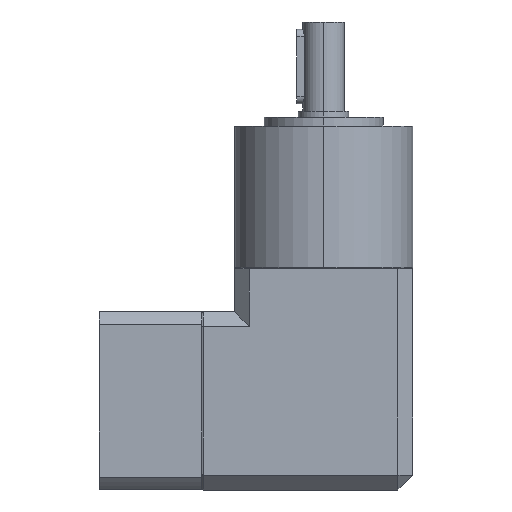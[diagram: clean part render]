
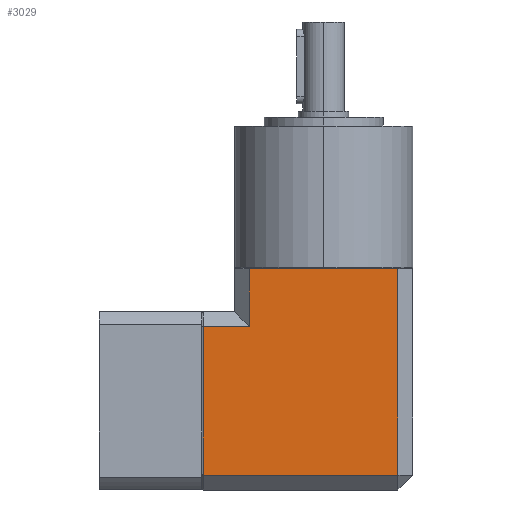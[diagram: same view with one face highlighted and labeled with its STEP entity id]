
A CAD part, left-side view. The second image highlights one B-rep face of the part: STEP entity #3029.
In plain terms, the highlighted planar face has unit normal (-1, 0, 0).
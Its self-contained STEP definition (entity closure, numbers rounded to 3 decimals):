
#25 = CARTESIAN_POINT ( 'NONE',  ( -30., 25., -122.5 ) ) ;
#51 = CARTESIAN_POINT ( 'NONE',  ( -30., -25., -48. ) ) ;
#74 = VECTOR ( 'NONE', #1235, 1000. ) ;
#90 = EDGE_CURVE ( 'NONE', #1121, #1146, #101, .T. ) ;
#101 = LINE ( 'NONE', #25, #2220 ) ;
#188 = ORIENTED_EDGE ( 'NONE', *, *, #1419, .T. ) ;
#244 = PLANE ( 'NONE',  #1110 ) ;
#445 = ORIENTED_EDGE ( 'NONE', *, *, #1644, .T. ) ;
#510 = DIRECTION ( 'NONE',  ( 0., 1., 0. ) ) ;
#606 = VERTEX_POINT ( 'NONE', #1600 ) ;
#611 = VECTOR ( 'NONE', #3540, 1000. ) ;
#657 = ORIENTED_EDGE ( 'NONE', *, *, #2622, .T. ) ;
#668 = CARTESIAN_POINT ( 'NONE',  ( -30., 41., -67.5 ) ) ;
#799 = LINE ( 'NONE', #668, #74 ) ;
#801 = ORIENTED_EDGE ( 'NONE', *, *, #1887, .T. ) ;
#839 = CARTESIAN_POINT ( 'NONE',  ( -30., 25., -67.5 ) ) ;
#894 = EDGE_CURVE ( 'NONE', #606, #1977, #3526, .T. ) ;
#989 = LINE ( 'NONE', #3504, #3097 ) ;
#1069 = DIRECTION ( 'NONE',  ( 0., 0., -1. ) ) ;
#1110 = AXIS2_PLACEMENT_3D ( 'NONE', #2434, #2725, #1069 ) ;
#1121 = VERTEX_POINT ( 'NONE', #3004 ) ;
#1146 = VERTEX_POINT ( 'NONE', #839 ) ;
#1235 = DIRECTION ( 'NONE',  ( 0., 1., 0. ) ) ;
#1338 = CARTESIAN_POINT ( 'NONE',  ( -30., 40.5, -67.5 ) ) ;
#1419 = EDGE_CURVE ( 'NONE', #1977, #1121, #989, .T. ) ;
#1541 = VECTOR ( 'NONE', #2866, 1000. ) ;
#1600 = CARTESIAN_POINT ( 'NONE',  ( -30., -25., -117.5 ) ) ;
#1644 = EDGE_CURVE ( 'NONE', #2224, #1724, #3132, .T. ) ;
#1675 = DIRECTION ( 'NONE',  ( 0., 0., -1. ) ) ;
#1724 = VERTEX_POINT ( 'NONE', #1753 ) ;
#1753 = CARTESIAN_POINT ( 'NONE',  ( -30., 40.5, -117.5 ) ) ;
#1887 = EDGE_CURVE ( 'NONE', #1724, #606, #3121, .T. ) ;
#1906 = CARTESIAN_POINT ( 'NONE',  ( -30., -25., -122.5 ) ) ;
#1977 = VERTEX_POINT ( 'NONE', #51 ) ;
#2156 = ORIENTED_EDGE ( 'NONE', *, *, #894, .T. ) ;
#2220 = VECTOR ( 'NONE', #1675, 1000. ) ;
#2224 = VERTEX_POINT ( 'NONE', #1338 ) ;
#2405 = VECTOR ( 'NONE', #2492, 1000. ) ;
#2434 = CARTESIAN_POINT ( 'NONE',  ( -30., -30., -122.5 ) ) ;
#2492 = DIRECTION ( 'NONE',  ( 0., -1., 0. ) ) ;
#2589 = CARTESIAN_POINT ( 'NONE',  ( -30., 40.5, -122.5 ) ) ;
#2606 = FACE_OUTER_BOUND ( 'NONE', #2879, .T. ) ;
#2622 = EDGE_CURVE ( 'NONE', #1146, #2224, #799, .T. ) ;
#2725 = DIRECTION ( 'NONE',  ( 1., 0., 0. ) ) ;
#2756 = ORIENTED_EDGE ( 'NONE', *, *, #90, .T. ) ;
#2866 = DIRECTION ( 'NONE',  ( 0., 0., -1. ) ) ;
#2879 = EDGE_LOOP ( 'NONE', ( #657, #445, #801, #2156, #188, #2756 ) ) ;
#3004 = CARTESIAN_POINT ( 'NONE',  ( -30., 25., -48. ) ) ;
#3019 = CARTESIAN_POINT ( 'NONE',  ( -30., -30., -117.5 ) ) ;
#3029 = ADVANCED_FACE ( 'NONE', ( #2606 ), #244, .F. ) ;
#3097 = VECTOR ( 'NONE', #510, 1000. ) ;
#3121 = LINE ( 'NONE', #3019, #2405 ) ;
#3132 = LINE ( 'NONE', #2589, #1541 ) ;
#3504 = CARTESIAN_POINT ( 'NONE',  ( -30., -30., -48. ) ) ;
#3526 = LINE ( 'NONE', #1906, #611 ) ;
#3540 = DIRECTION ( 'NONE',  ( 0., 0., 1. ) ) ;
